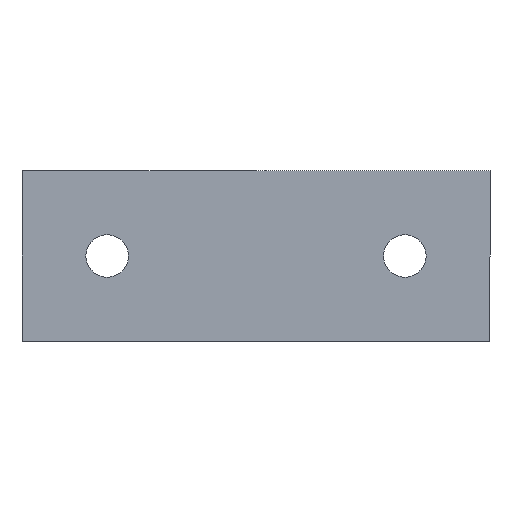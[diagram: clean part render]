
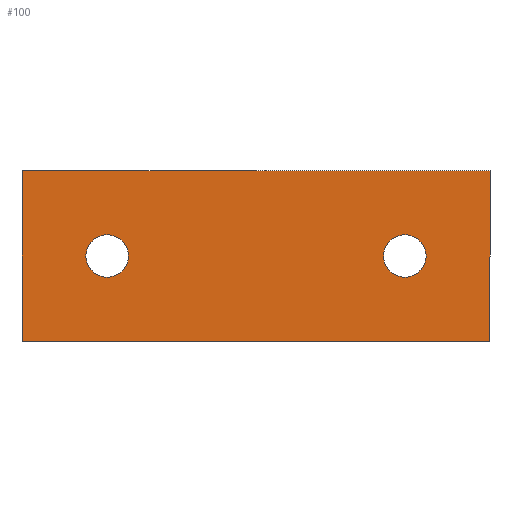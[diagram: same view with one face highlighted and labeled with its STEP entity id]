
A CAD part, front view. The second image highlights one B-rep face of the part: STEP entity #100.
In plain terms, the highlighted planar face has unit normal (0, -1, 0).
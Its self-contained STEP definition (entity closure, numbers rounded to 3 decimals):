
#8 = EDGE_CURVE ( 'NONE', #107, #24, #266, .T. ) ;
#16 = EDGE_CURVE ( 'NONE', #110, #71, #226, .T. ) ;
#24 = VERTEX_POINT ( 'NONE', #194 ) ;
#36 = EDGE_CURVE ( 'NONE', #24, #38, #162, .T. ) ;
#38 = VERTEX_POINT ( 'NONE', #279 ) ;
#41 = EDGE_LOOP ( 'NONE', ( #101, #66 ) ) ;
#46 = VERTEX_POINT ( 'NONE', #174 ) ;
#53 = ORIENTED_EDGE ( 'NONE', *, *, #59, .T. ) ;
#57 = EDGE_LOOP ( 'NONE', ( #64, #99, #60, #82 ) ) ;
#59 = EDGE_CURVE ( 'NONE', #46, #112, #256, .T. ) ;
#60 = ORIENTED_EDGE ( 'NONE', *, *, #77, .F. ) ;
#62 = EDGE_LOOP ( 'NONE', ( #53, #67 ) ) ;
#64 = ORIENTED_EDGE ( 'NONE', *, *, #8, .F. ) ;
#65 = EDGE_CURVE ( 'NONE', #71, #110, #250, .T. ) ;
#66 = ORIENTED_EDGE ( 'NONE', *, *, #16, .T. ) ;
#67 = ORIENTED_EDGE ( 'NONE', *, *, #109, .T. ) ;
#71 = VERTEX_POINT ( 'NONE', #354 ) ;
#77 = EDGE_CURVE ( 'NONE', #38, #79, #338, .T. ) ;
#79 = VERTEX_POINT ( 'NONE', #310 ) ;
#82 = ORIENTED_EDGE ( 'NONE', *, *, #36, .F. ) ;
#90 = EDGE_CURVE ( 'NONE', #79, #107, #361, .T. ) ;
#99 = ORIENTED_EDGE ( 'NONE', *, *, #90, .F. ) ;
#100 = ADVANCED_FACE ( 'NONE', ( #368, #396, #364 ), #367, .F. ) ;
#101 = ORIENTED_EDGE ( 'NONE', *, *, #65, .T. ) ;
#107 = VERTEX_POINT ( 'NONE', #397 ) ;
#109 = EDGE_CURVE ( 'NONE', #112, #46, #405, .T. ) ;
#110 = VERTEX_POINT ( 'NONE', #380 ) ;
#112 = VERTEX_POINT ( 'NONE', #395 ) ;
#145 = CARTESIAN_POINT ( 'NONE',  ( -27.5, 0., 10. ) ) ;
#162 = LINE ( 'NONE', #145, #278 ) ;
#174 = CARTESIAN_POINT ( 'NONE',  ( -17.5, 0., 2.5 ) ) ;
#194 = CARTESIAN_POINT ( 'NONE',  ( -27.5, 0., 10. ) ) ;
#222 = DIRECTION ( 'NONE',  ( 0., 0., 1. ) ) ;
#223 = DIRECTION ( 'NONE',  ( 0., 1., 0. ) ) ;
#224 = CARTESIAN_POINT ( 'NONE',  ( 17.5, 0., 0. ) ) ;
#225 = AXIS2_PLACEMENT_3D ( 'NONE', #224, #223, #270 ) ;
#226 = CIRCLE ( 'NONE', #225, 2.5 ) ;
#239 = DIRECTION ( 'NONE',  ( 0., 0., 1. ) ) ;
#240 = DIRECTION ( 'NONE',  ( 0., 1., 0. ) ) ;
#241 = CARTESIAN_POINT ( 'NONE',  ( 17.5, 0., 0. ) ) ;
#242 = AXIS2_PLACEMENT_3D ( 'NONE', #241, #240, #239 ) ;
#250 = CIRCLE ( 'NONE', #242, 2.5 ) ;
#252 = DIRECTION ( 'NONE',  ( 0., 0., 1. ) ) ;
#253 = DIRECTION ( 'NONE',  ( 0., 1., 0. ) ) ;
#254 = CARTESIAN_POINT ( 'NONE',  ( -17.5, 0., 0. ) ) ;
#255 = AXIS2_PLACEMENT_3D ( 'NONE', #254, #253, #252 ) ;
#256 = CIRCLE ( 'NONE', #255, 2.5 ) ;
#265 = CARTESIAN_POINT ( 'NONE',  ( -27.5, 0., -10. ) ) ;
#266 = LINE ( 'NONE', #265, #271 ) ;
#270 = DIRECTION ( 'NONE',  ( 0., 0., 1. ) ) ;
#271 = VECTOR ( 'NONE', #222, 1000. ) ;
#277 = DIRECTION ( 'NONE',  ( 1., 0., 0. ) ) ;
#278 = VECTOR ( 'NONE', #277, 1000. ) ;
#279 = CARTESIAN_POINT ( 'NONE',  ( 27.5, 0., 10. ) ) ;
#310 = CARTESIAN_POINT ( 'NONE',  ( 27.5, 0., -10. ) ) ;
#337 = CARTESIAN_POINT ( 'NONE',  ( 27.5, 0., -10. ) ) ;
#338 = LINE ( 'NONE', #337, #375 ) ;
#354 = CARTESIAN_POINT ( 'NONE',  ( 17.5, 0., 2.5 ) ) ;
#356 = CARTESIAN_POINT ( 'NONE',  ( -27.5, 0., 10. ) ) ;
#361 = LINE ( 'NONE', #378, #377 ) ;
#364 = FACE_OUTER_BOUND ( 'NONE', #57, .T. ) ;
#367 = PLANE ( 'NONE',  #369 ) ;
#368 = FACE_BOUND ( 'NONE', #62, .T. ) ;
#369 = AXIS2_PLACEMENT_3D ( 'NONE', #356, #399, #398 ) ;
#374 = DIRECTION ( 'NONE',  ( 0., 0., -1. ) ) ;
#375 = VECTOR ( 'NONE', #374, 1000. ) ;
#376 = DIRECTION ( 'NONE',  ( -1., 0., 0. ) ) ;
#377 = VECTOR ( 'NONE', #376, 1000. ) ;
#378 = CARTESIAN_POINT ( 'NONE',  ( -27.5, 0., -10. ) ) ;
#380 = CARTESIAN_POINT ( 'NONE',  ( 17.5, 0., -2.5 ) ) ;
#392 = DIRECTION ( 'NONE',  ( 0., 0., 1. ) ) ;
#393 = DIRECTION ( 'NONE',  ( 0., 1., 0. ) ) ;
#394 = CARTESIAN_POINT ( 'NONE',  ( -17.5, 0., 0. ) ) ;
#395 = CARTESIAN_POINT ( 'NONE',  ( -17.5, 0., -2.5 ) ) ;
#396 = FACE_BOUND ( 'NONE', #41, .T. ) ;
#397 = CARTESIAN_POINT ( 'NONE',  ( -27.5, 0., -10. ) ) ;
#398 = DIRECTION ( 'NONE',  ( 0., 0., 1. ) ) ;
#399 = DIRECTION ( 'NONE',  ( 0., 1., 0. ) ) ;
#404 = AXIS2_PLACEMENT_3D ( 'NONE', #394, #393, #392 ) ;
#405 = CIRCLE ( 'NONE', #404, 2.5 ) ;
